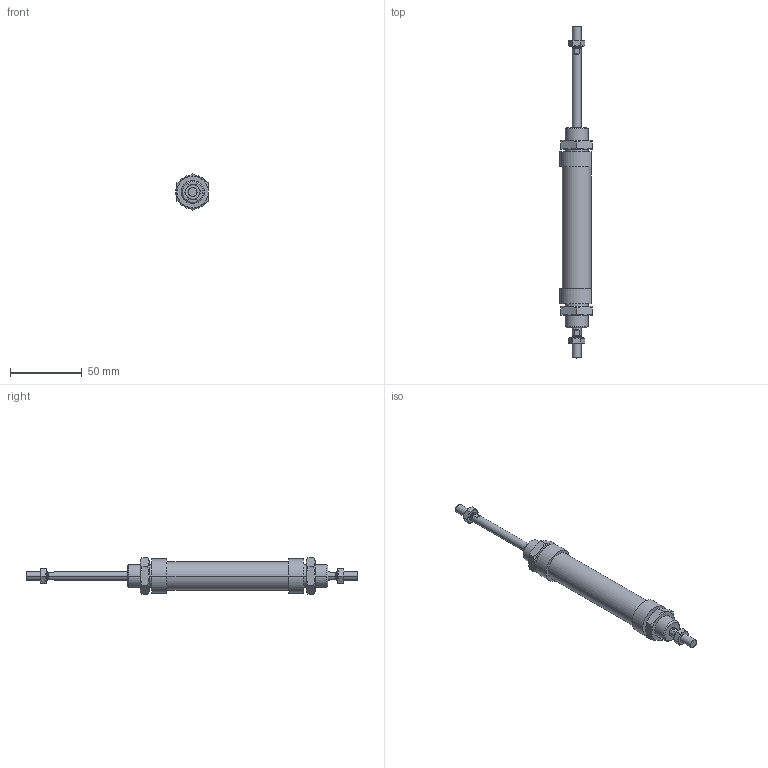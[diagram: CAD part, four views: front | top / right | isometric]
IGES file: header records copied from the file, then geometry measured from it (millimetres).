
Global section: file name: No Iges File Name specified; native system: AutoDesk Inventor R6.0; preprocessor: AutoDesk Inventor Iges Exporter R6.0; author: No Author specified; organization: No Organization specified; date: 20030403.072141; units: millimetre
Bounding box: 23 x 232 x 25.4 mm (x, y, z)
Volume: 48573.1 mm3; surface area: 19800.4 mm2
Topology: 6 solids, 6 shells, 180 faces, 388 edges, 228 vertices
Faces by surface type: cone 68, plane 56, bspline 30, cylinder 20, revolution 6
